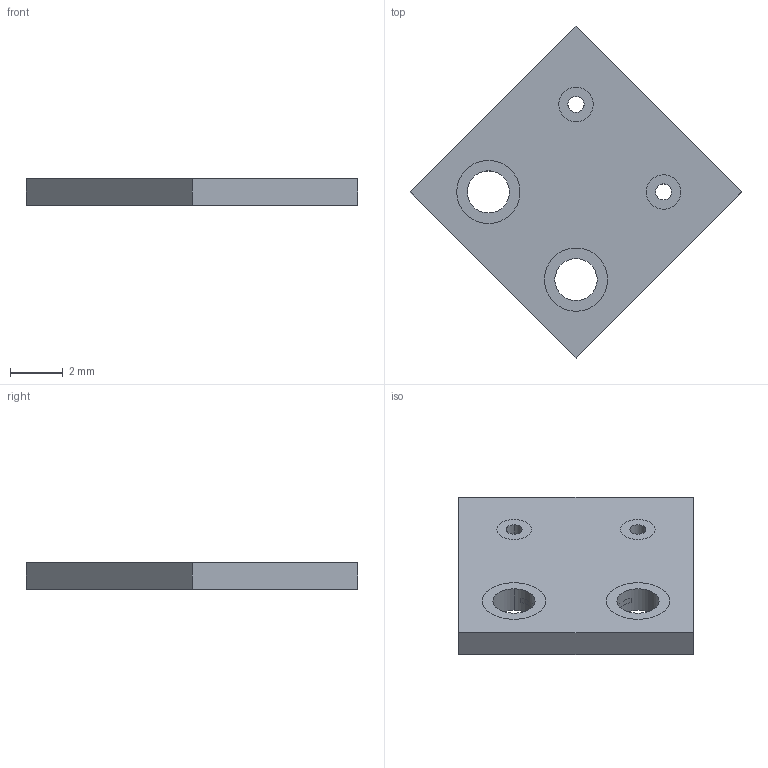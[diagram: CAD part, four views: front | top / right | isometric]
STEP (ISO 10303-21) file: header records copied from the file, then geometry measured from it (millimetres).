
FILE_DESCRIPTION (( 'STEP AP203' ), '1' );
FILE_NAME ('AME_Inlay_Version2.STEP', '2022-08-05T09:05:52', ( '' ), ( '' ), 'SwSTEP 2.0', 'SolidWorks 2022', '' );
FILE_SCHEMA (( 'CONFIG_CONTROL_DESIGN' ));
Length unit declared in the file: millimetre
Products named in the file (1): AME_Inlay_Version2
Bounding box: 12.59 x 12.59 x 1 mm (x, y, z)
Volume: 74.7 mm3; surface area: 283.9 mm2
Topology: 7 solids, 7 shells, 136 faces, 348 edges, 232 vertices
Faces by surface type: cylinder 78, plane 58
Entity records: 4305 total; most frequent: DIRECTION 790, CARTESIAN_POINT 717, ORIENTED_EDGE 696, EDGE_CURVE 348, AXIS2_PLACEMENT_3D 305, VERTEX_POINT 232, LINE 180, VECTOR 180
